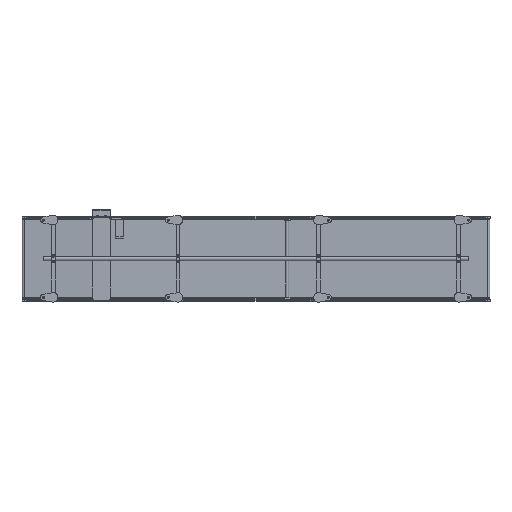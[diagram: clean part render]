
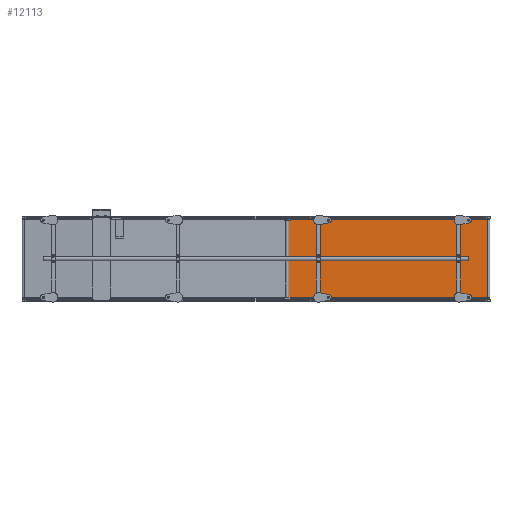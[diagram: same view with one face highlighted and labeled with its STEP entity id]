
A CAD part, front view. The second image highlights one B-rep face of the part: STEP entity #12113.
In plain terms, the highlighted planar face has unit normal (-0.006, -1, 0).
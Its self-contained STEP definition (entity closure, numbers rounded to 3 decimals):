
#1955 = CARTESIAN_POINT ( 'NONE',  ( 1700.058, -18.1, 250. ) ) ;
#6782 = VECTOR ( 'NONE', #29721, 1000. ) ;
#8830 = VERTEX_POINT ( 'NONE', #75259 ) ;
#12113 = ADVANCED_FACE ( 'NONE', ( #15992 ), #81214, .F. ) ;
#12500 = VERTEX_POINT ( 'NONE', #20353 ) ;
#15305 = EDGE_CURVE ( 'NONE', #49588, #8830, #42212, .T. ) ;
#15992 = FACE_OUTER_BOUND ( 'NONE', #56431, .T. ) ;
#17874 = LINE ( 'NONE', #71007, #94601 ) ;
#20353 = CARTESIAN_POINT ( 'NONE',  ( 2985.914, -26., 250. ) ) ;
#23324 = DIRECTION ( 'NONE',  ( 0.006, 1., 0. ) ) ;
#29721 = DIRECTION ( 'NONE',  ( 1., -0.006, 0. ) ) ;
#30694 = DIRECTION ( 'NONE',  ( 0., 0., -1. ) ) ;
#33517 = AXIS2_PLACEMENT_3D ( 'NONE', #67383, #23324, #88541 ) ;
#40918 = EDGE_CURVE ( 'NONE', #84305, #49588, #80559, .T. ) ;
#42212 = LINE ( 'NONE', #74122, #6782 ) ;
#42913 = ORIENTED_EDGE ( 'NONE', *, *, #40918, .T. ) ;
#46753 = CARTESIAN_POINT ( 'NONE',  ( 2985.914, -26., 250. ) ) ;
#49588 = VERTEX_POINT ( 'NONE', #60482 ) ;
#56431 = EDGE_LOOP ( 'NONE', ( #67547, #77714, #70667, #42913 ) ) ;
#60482 = CARTESIAN_POINT ( 'NONE',  ( 1700.058, -18.1, -250. ) ) ;
#61017 = LINE ( 'NONE', #46753, #89692 ) ;
#63970 = DIRECTION ( 'NONE',  ( 1., -0.006, 0. ) ) ;
#67383 = CARTESIAN_POINT ( 'NONE',  ( 1700.058, -18.1, 250. ) ) ;
#67547 = ORIENTED_EDGE ( 'NONE', *, *, #15305, .T. ) ;
#68234 = DIRECTION ( 'NONE',  ( 0., 0., -1. ) ) ;
#70667 = ORIENTED_EDGE ( 'NONE', *, *, #71006, .F. ) ;
#71006 = EDGE_CURVE ( 'NONE', #84305, #12500, #17874, .T. ) ;
#71007 = CARTESIAN_POINT ( 'NONE',  ( 1700.058, -18.1, 250. ) ) ;
#74122 = CARTESIAN_POINT ( 'NONE',  ( 1700.058, -18.1, -250. ) ) ;
#75259 = CARTESIAN_POINT ( 'NONE',  ( 2985.914, -26., -250. ) ) ;
#77714 = ORIENTED_EDGE ( 'NONE', *, *, #84744, .F. ) ;
#78861 = CARTESIAN_POINT ( 'NONE',  ( 1700.058, -18.1, 250. ) ) ;
#80559 = LINE ( 'NONE', #1955, #93143 ) ;
#81214 = PLANE ( 'NONE',  #33517 ) ;
#84305 = VERTEX_POINT ( 'NONE', #78861 ) ;
#84744 = EDGE_CURVE ( 'NONE', #12500, #8830, #61017, .T. ) ;
#88541 = DIRECTION ( 'NONE',  ( -1., 0.006, 0. ) ) ;
#89692 = VECTOR ( 'NONE', #68234, 1000. ) ;
#93143 = VECTOR ( 'NONE', #30694, 1000. ) ;
#94601 = VECTOR ( 'NONE', #63970, 1000. ) ;
